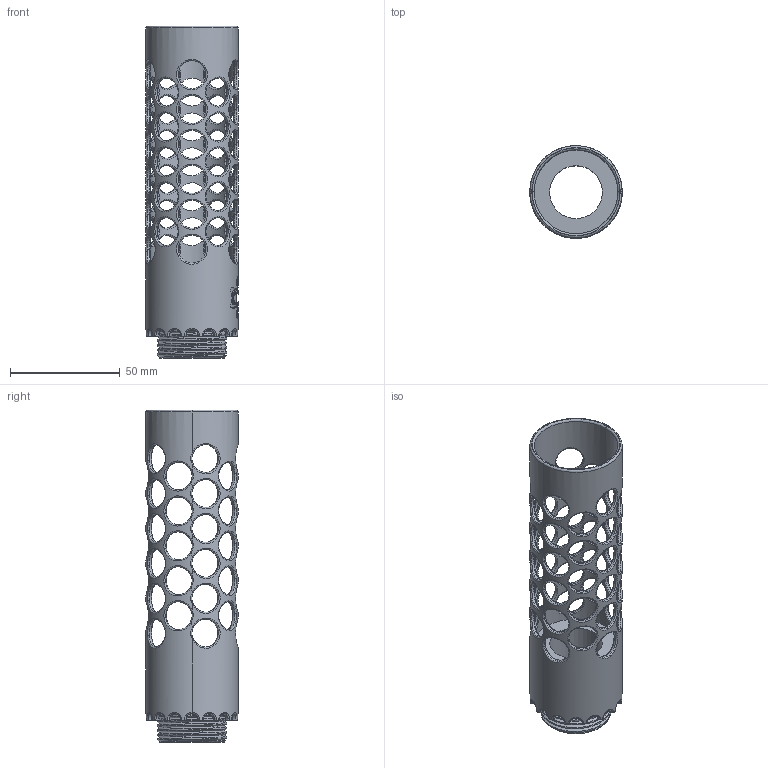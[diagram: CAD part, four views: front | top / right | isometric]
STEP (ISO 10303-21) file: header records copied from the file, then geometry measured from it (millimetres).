
FILE_DESCRIPTION (( 'STEP AP203' ), '1' );
FILE_NAME ('Barrel sleeve.STEP', '2010-04-09T22:14:04', ( '' ), ( '' ), 'SwSTEP 2.0', 'SolidWorks 2008', '' );
FILE_SCHEMA (( 'CONFIG_CONTROL_DESIGN' ));
Products named in the file (1): Barrel sleeve
Bounding box: 42 x 42 x 151 mm (x, y, z)
Volume: 38518.2 mm3; surface area: 30655.5 mm2
Topology: 1 solids, 1 shells, 438 faces, 1427 edges, 949 vertices
Faces by surface type: bspline 270, cylinder 140, plane 20, torus 4, cone 4
Entity records: 83707 total; most frequent: CARTESIAN_POINT 73660, ORIENTED_EDGE 2854, EDGE_CURVE 1427, DIRECTION 1062, VERTEX_POINT 949, B_SPLINE_CURVE_WITH_KNOTS 931, EDGE_LOOP 508, AXIS2_PLACEMENT_3D 438
